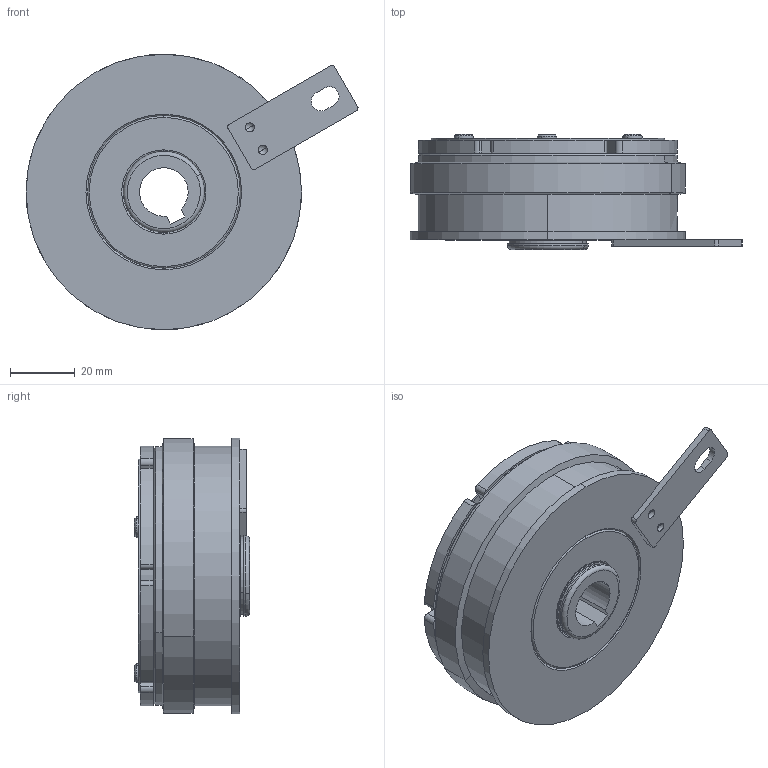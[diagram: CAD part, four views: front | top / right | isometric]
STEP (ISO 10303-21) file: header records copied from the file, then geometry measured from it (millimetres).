
FILE_DESCRIPTION (( 'STEP AP214' ), '1' );
FILE_NAME ('C-M10-R01-15.STEP', '2017-03-03T00:31:13', ( 'tec4' ), ( '' ), 'SwSTEP 2.0', 'SolidWorks 2015', '' );
FILE_SCHEMA (( 'AUTOMOTIVE_DESIGN' ));
Length unit declared in the file: millimetre
Products named in the file (1): C-M10-R01-15
Bounding box: 102.4 x 35.5 x 85 mm (x, y, z)
Surface area: 49065.8 mm2 (no closed solid volume)
Topology: 0 solids, 12 shells, 165 faces, 488 edges, 336 vertices
Faces by surface type: cylinder 94, plane 42, cone 16, torus 9, sphere 4
Entity records: 7694 total; most frequent: CARTESIAN_POINT 1140, DIRECTION 1113, ORIENTED_EDGE 852, EDGE_CURVE 488, AXIS2_PLACEMENT_3D 465, VERTEX_POINT 336, CIRCLE 299, EDGE_LOOP 223
